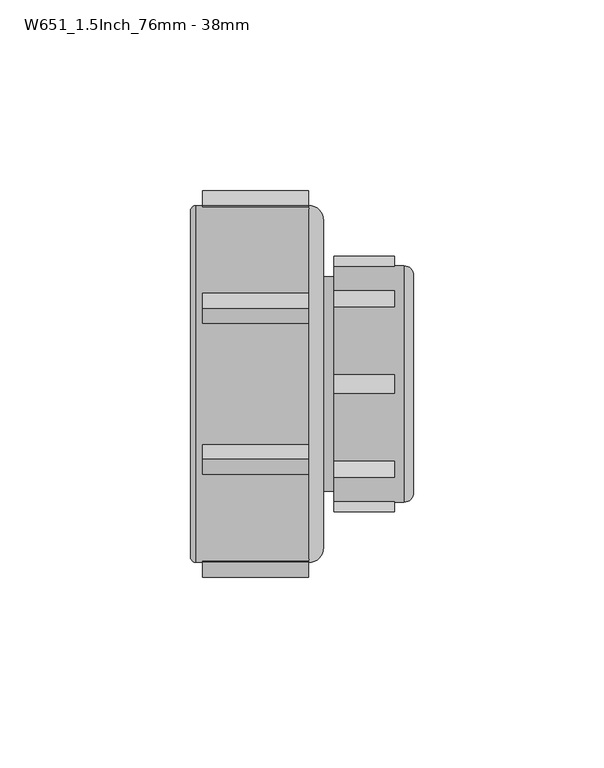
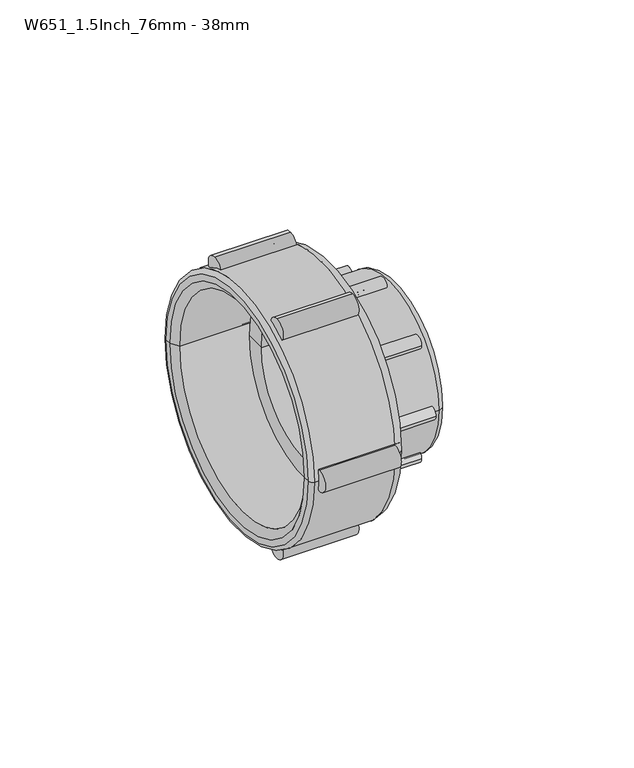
"""IFC4 building model written with IfcOpenShell, lengths in millimetres: pipe fitting geometry, Durapipe_PipeFitting_VulcatheneMechanical_VerticalInlet_W65 : W651_1.5Inch_76mm - 38mm."""

import ifcopenshell
import ifcopenshell.guid

model = None  # the IFC model being written
_history = None  # IfcOwnerHistory: only IFC2X3 demands one
_inside = {}  # id of a spatial element -> (the spatial element, [elements in it])
_under = {}  # id of a project, library or spatial element -> (it, [spatial elements below it])
_declared = {}  # id of a project -> (the project, [libraries it declares])
_typed = {}  # id of a type object -> (the type object, [elements of that type])
_made_of = {}  # id of a material, layer set ... -> (it, [elements and type objects made of it])


def new_model(schema):
    """Start an empty IFC model of exactly this schema.

    Asked for "IFC4X3", IfcOpenShell would pick the latest addendum, in which some entities
    have other attributes; the version numbers below select the first issue.
    IFC2X3 requires an IfcOwnerHistory on every rooted entity: one is made here for all.
    """
    global model, _history
    if schema == "IFC4X3":
        model = ifcopenshell.file(schema_version=(4, 3, 0, 0))
    else:
        model = ifcopenshell.file(schema=schema)
    _inside.clear()
    _under.clear()
    _declared.clear()
    _typed.clear()
    _made_of.clear()
    _history = None
    if model.schema == "IFC2X3":
        org = make("IfcOrganization", Name="unknown")
        user = make(
            "IfcPersonAndOrganization",
            ThePerson=make("IfcPerson", FamilyName="unknown"),
            TheOrganization=org,
        )
        app = make(
            "IfcApplication",
            ApplicationDeveloper=org,
            Version="unknown",
            ApplicationFullName="unknown",
            ApplicationIdentifier="unknown",
        )
        _history = make(
            "IfcOwnerHistory",
            OwningUser=user,
            OwningApplication=app,
            ChangeAction="ADDED",
            CreationDate=0,
        )
    return model


def make(cls, **values):
    """One entity of the class cls with the attributes given. An attribute that is None is left unset."""
    return model.create_entity(
        cls, **{name: value for name, value in values.items() if value is not None}
    )


def rooted(cls, **values):
    """An entity with a GlobalId (a new one), such as an element, a storey or a relation."""
    return make(cls, GlobalId=ifcopenshell.guid.new(), OwnerHistory=_history, **values)


def si_unit(unit_type, name, prefix=None):
    """IfcSIUnit, for example si_unit("LENGTHUNIT", "METRE", prefix="MILLI")."""
    return make("IfcSIUnit", UnitType=unit_type, Prefix=prefix, Name=name)


def assignment(units):
    """IfcUnitAssignment: the units of a project."""
    return None if units is None else make("IfcUnitAssignment", Units=units)


def point(xyz):
    """IfcCartesianPoint."""
    return None if xyz is None else make("IfcCartesianPoint", Coordinates=xyz)


def direction(xyz):
    """IfcDirection."""
    return None if xyz is None else make("IfcDirection", DirectionRatios=xyz)


def frame(location, z_axis=None, x_axis=None):
    """IfcAxis2Placement3D, a coordinate frame: its origin and axes. An axis left out is left unset."""
    return make(
        "IfcAxis2Placement3D",
        Location=point(location),
        Axis=direction(z_axis),
        RefDirection=direction(x_axis),
    )


def frame_2d(location, x_axis=None):
    """IfcAxis2Placement2D, a coordinate frame in the plane: its origin and x axis."""
    return make(
        "IfcAxis2Placement2D", Location=point(location), RefDirection=direction(x_axis)
    )


def origin():
    """The frame at (0, 0, 0) with its axes left unset."""
    return frame((0.0, 0.0, 0.0))


def place(relative_to, where):
    """IfcLocalPlacement: puts the frame where relative to a parent placement (None: the world)."""
    return make(
        "IfcLocalPlacement", PlacementRelTo=relative_to, RelativePlacement=where
    )


def context(
    kind, dimensions, precision=None, world=None, true_north=None, identifier=None
):
    """IfcGeometricRepresentationContext, for example the 3D "Model" context."""
    return make(
        "IfcGeometricRepresentationContext",
        ContextIdentifier=identifier,
        ContextType=kind,
        CoordinateSpaceDimension=dimensions,
        Precision=precision,
        WorldCoordinateSystem=world,
        TrueNorth=true_north,
    )


def project(units=None, contexts=None):
    """IfcProject with its units and contexts."""
    return rooted(
        "IfcProject",
        Name="project",
        RepresentationContexts=contexts,
        UnitsInContext=assignment(units),
    )


def spatial(cls, under=None, at=None, **own):
    """A site, building, storey or space (cls), placed at a placement, below another one or the project."""
    s = rooted(cls, ObjectPlacement=at, **own)
    if under is not None:
        _under.setdefault(under.id(), (under, []))[1].append(s)
    return s


def polyline(points):
    """IfcPolyline through the points."""
    return make("IfcPolyline", Points=[point(p) for p in points])


def circle_curve(where, radius):
    """IfcCircle in the frame where."""
    return make("IfcCircle", Position=where, Radius=radius)


def ellipse_curve(where, semi_axis1, semi_axis2):
    """IfcEllipse in the frame where."""
    return make(
        "IfcEllipse", Position=where, SemiAxis1=semi_axis1, SemiAxis2=semi_axis2
    )


def trimmed(basis, trim1, trim2, sense, master):
    """IfcTrimmedCurve: the piece of a basis curve between two trims."""
    return make(
        "IfcTrimmedCurve",
        BasisCurve=basis,
        Trim1=trim1,
        Trim2=trim2,
        SenseAgreement=sense,
        MasterRepresentation=master,
    )


def segment(curve, same_sense, transition):
    """IfcCompositeCurveSegment."""
    return make(
        "IfcCompositeCurveSegment",
        Transition=transition,
        SameSense=same_sense,
        ParentCurve=curve,
    )


def composite_curve(segments, self_intersect=None):
    """IfcCompositeCurve: segments joined end to end."""
    return make("IfcCompositeCurve", Segments=segments, SelfIntersect=self_intersect)


def outline(outer, holes=None, kind="AREA"):
    """IfcArbitraryClosedProfileDef: a profile drawn as a closed curve; with holes, ...WithVoids."""
    if holes is None:
        return make("IfcArbitraryClosedProfileDef", ProfileType=kind, OuterCurve=outer)
    return make(
        "IfcArbitraryProfileDefWithVoids",
        ProfileType=kind,
        OuterCurve=outer,
        InnerCurves=holes,
    )


def extrude(swept, where, along, depth):
    """IfcExtrudedAreaSolid: the profile swept, set in the frame where, extruded along a direction by depth."""
    return make(
        "IfcExtrudedAreaSolid",
        SweptArea=swept,
        Position=where,
        ExtrudedDirection=direction(along),
        Depth=depth,
    )


def shape(context_of_items, identifier, shape_type, items):
    """IfcShapeRepresentation: the items that make up one representation, for example the "Body"."""
    return make(
        "IfcShapeRepresentation",
        ContextOfItems=context_of_items,
        RepresentationIdentifier=identifier,
        RepresentationType=shape_type,
        Items=items,
    )


def source(mapping_origin, context_of_items, identifier, shape_type, items):
    """IfcRepresentationMap: a shape defined once, which mapped items show again and again."""
    return make(
        "IfcRepresentationMap",
        MappingOrigin=mapping_origin,
        MappedRepresentation=shape(context_of_items, identifier, shape_type, items),
    )


def transform(
    local_origin,
    x_axis=None,
    y_axis=None,
    z_axis=None,
    scale=None,
    scale2=None,
    scale3=None,
    uniform=True,
):
    """IfcCartesianTransformationOperator3D, or its non-uniform kind. x_axis, y_axis, z_axis: its Axis1, 2, 3."""
    if uniform:
        return make(
            "IfcCartesianTransformationOperator3D",
            Axis1=direction(x_axis),
            Axis2=direction(y_axis),
            LocalOrigin=point(local_origin),
            Scale=scale,
            Axis3=direction(z_axis),
        )
    return make(
        "IfcCartesianTransformationOperator3DnonUniform",
        Axis1=direction(x_axis),
        Axis2=direction(y_axis),
        LocalOrigin=point(local_origin),
        Scale=scale,
        Axis3=direction(z_axis),
        Scale2=scale2,
        Scale3=scale3,
    )


def mapped(mapping_source, mapping_target):
    """IfcMappedItem: shows the shape of a source again, moved by a transform."""
    return make(
        "IfcMappedItem", MappingSource=mapping_source, MappingTarget=mapping_target
    )


def made_of(thing, what):
    """Note that an element or type object is made of a material, layer set ...; save() writes the relation."""
    if what is not None:
        _made_of.setdefault(what.id(), (what, []))[1].append(thing)
    return thing


def element(
    cls,
    number,
    at=None,
    inside=None,
    cuts=None,
    type_object=None,
    material=None,
    context=None,
    identifier="Body",
    shape_type=None,
    held_by="IfcProductDefinitionShape",
    body=None,
    shapes=None,
    **own,
):
    """One element of the class cls, such as IfcWall. Its Tag is "e" and its number.

    at: its placement. inside: the storey or other place that contains it. cuts: it is an
    opening in that element (IfcRelVoidsElement). A single representation is given by context,
    identifier, shape_type and body (its items); several are given by shapes. held_by: the class
    of the entity that holds the representations. save() writes the other relations.
    """
    e = rooted(cls, Tag="e%d" % number, ObjectPlacement=at, **own)
    if body is not None:
        shapes = [shape(context, identifier, shape_type, body)]
    if shapes is not None:
        e.Representation = make(held_by, Representations=shapes)
    if inside is not None:
        _inside.setdefault(inside.id(), (inside, []))[1].append(e)
    if cuts is not None:
        rooted(
            "IfcRelVoidsElement", RelatingBuildingElement=cuts, RelatedOpeningElement=e
        )
    if type_object is not None:
        _typed.setdefault(type_object.id(), (type_object, []))[1].append(e)
    return made_of(e, material)


def aggregate(whole, parts):
    """IfcRelAggregates: a whole, such as a stair, and the parts it consists of."""
    return rooted("IfcRelAggregates", RelatingObject=whole, RelatedObjects=parts)


def save(model, path):
    """Write the relations noted so far, then the file.

    IfcRelAggregates (storeys below a building ...), IfcRelContainedInSpatialStructure (elements
    in a storey), IfcRelDefinesByType, IfcRelAssociatesMaterial and IfcRelDeclares: one each for
    every whole, place, type object, material and project.
    """
    for whole, parts in _under.values():
        aggregate(whole, parts)
    for where, things in _inside.values():
        rooted(
            "IfcRelContainedInSpatialStructure",
            RelatedElements=things,
            RelatingStructure=where,
        )
    for kind, things in _typed.values():
        rooted("IfcRelDefinesByType", RelatedObjects=things, RelatingType=kind)
    for what, things in _made_of.values():
        rooted("IfcRelAssociatesMaterial", RelatedObjects=things, RelatingMaterial=what)
    for by, libraries in _declared.values():
        rooted("IfcRelDeclares", RelatingContext=by, RelatedDefinitions=libraries)
    model.write(path)


def plane_surface(at):
    """IfcPlane: the flat surface through the origin of the frame at, square to its z axis."""
    return make("IfcPlane", Position=at)


def cylinder_surface(at, radius):
    """IfcCylindricalSurface: all points at the distance radius from the z axis of the frame at."""
    return make("IfcCylindricalSurface", Position=at, Radius=radius)


def revolved_surface(curve, axis_point, axis_direction):
    """IfcSurfaceOfRevolution: the curve turned about the line through axis_point along axis_direction."""
    return make(
        "IfcSurfaceOfRevolution",
        SweptCurve=make("IfcArbitraryOpenProfileDef", ProfileType="CURVE", Curve=curve),
        AxisPosition=make("IfcAxis1Placement", Location=point(axis_point), Axis=direction(axis_direction)),
    )


def advanced_brep(points, edges, surfaces, faces):
    """IfcAdvancedBrep: a solid bounded by faces that lie on surfaces and meet in shared edges.

    An edge is (start, end): straight between two places in points (the first is 0);
    or (start, end, curve); or (start, end, curve, False) where it runs against its curve.
    A face is (place in surfaces, loops), or (place, loops, False) where it looks against
    its surface's normal. A loop lists edges by number (the first is 1), with a minus sign
    where the edge is run from its end to its start. The first loop is the outer one.
    """
    corners = [point(p) for p in points]
    vertices = [make("IfcVertexPoint", VertexGeometry=c) for c in corners]
    made = []
    for start, end, *more in edges:
        made.append(
            make(
                "IfcEdgeCurve",
                EdgeStart=vertices[start],
                EdgeEnd=vertices[end],
                EdgeGeometry=more[0] if more else make("IfcPolyline", Points=[corners[start], corners[end]]),
                SameSense=more[1] if len(more) > 1 else True,
            )
        )
    hull = []
    for where, loops, *sense in faces:
        bounds = []
        for j, loop in enumerate(loops):
            ring = [make("IfcOrientedEdge", EdgeElement=made[abs(k) - 1], Orientation=k > 0) for k in loop]
            bounds.append(
                make(
                    "IfcFaceOuterBound" if j == 0 else "IfcFaceBound",
                    Bound=make("IfcEdgeLoop", EdgeList=ring),
                    Orientation=True,
                )
            )
        hull.append(make("IfcAdvancedFace", Bounds=bounds, FaceSurface=surfaces[where], SameSense=sense[0] if sense else True))
    return make("IfcAdvancedBrep", Outer=make("IfcClosedShell", CfsFaces=hull))


def w651_1_5inch_76mm_38mm_cad2a2d1(model_context):
    return source(origin(), model_context, "Body", "SolidModel", [
        advanced_brep(
        [(25.1, 18.5969083, 17.9055623), (25.1, -18.5969083, -19.2882544), (25.1, -17.1119841, -17.8033301), (25.1, 17.1119841, 16.4206381), (20.1, 18.3140656, 17.6227196), (20.1, -18.3140656, -19.0054117), (18.6, 18.1019336, 17.4105876), (18.6, -18.1019336, -18.7932796), (20.1, -18.1019336, -18.7932796), (20.1, 18.1019336, 17.4105876), (18.6, 17.1119841, 16.4206381), (18.6, -17.1119841, -17.8033301), (20.6, 17.1119841, 16.4206381), (20.6, -17.1119841, -17.8033301), (20.6, 16.5462987, 15.8549527), (20.6, -16.5462987, -17.2376447), (22.9, 17.1119841, 16.4206381), (22.9, -17.1119841, -17.8033301), (22.9, -16.5462987, -17.2376447), (22.9, 16.5462987, 15.8549527)],
        [
            (0, 1, circle_curve(frame((25.1, 0.0, -0.691346), z_axis=(1.0, 0.0, 0.0), x_axis=(0.0, -0.7071067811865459, -0.7071067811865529)), 26.3)),
            (1, 2),
            (2, 3, circle_curve(frame((25.1, 0.0, -0.691346), z_axis=(-1.0, 0.0, 0.0), x_axis=(0.0, -0.7071067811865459, -0.7071067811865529)), 24.2)),
            (3, 0),
            (1, 0, circle_curve(frame((25.1, 0.0, -0.691346), z_axis=(1.0, 0.0, 0.0), x_axis=(0.0, -0.7071067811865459, -0.7071067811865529)), 26.3)),
            (3, 2, circle_curve(frame((25.1, 0.0, -0.691346), z_axis=(-1.0, 0.0, 0.0), x_axis=(0.0, -0.7071067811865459, -0.7071067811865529)), 24.2)),
            (4, 5, circle_curve(frame((20.1, 0.0, -0.691346), z_axis=(1.0, 0.0, 0.0), x_axis=(0.0, -0.7071067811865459, -0.7071067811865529)), 25.9)),
            (5, 1),
            (0, 4),
            (5, 4, circle_curve(frame((20.1, 0.0, -0.691346), z_axis=(1.0, 0.0, 0.0), x_axis=(0.0, -0.7071067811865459, -0.7071067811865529)), 25.9)),
            (6, 7, circle_curve(frame((18.6, 0.0, -0.691346), z_axis=(1.0, 0.0, 0.0), x_axis=(0.0, -0.7071067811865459, -0.7071067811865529)), 25.6)),
            (7, 8),
            (8, 9, circle_curve(frame((20.1, 0.0, -0.691346), z_axis=(-1.0, 0.0, 0.0), x_axis=(0.0, -0.7071067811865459, -0.7071067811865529)), 25.6)),
            (9, 6),
            (7, 6, circle_curve(frame((18.6, 0.0, -0.691346), z_axis=(1.0, 0.0, 0.0), x_axis=(0.0, -0.7071067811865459, -0.7071067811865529)), 25.6)),
            (9, 8, circle_curve(frame((20.1, 0.0, -0.691346), z_axis=(-1.0, 0.0, 0.0), x_axis=(0.0, -0.7071067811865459, -0.7071067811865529)), 25.6)),
            (6, 10),
            (10, 11, circle_curve(frame((18.6, 0.0, -0.691346), z_axis=(1.0, 0.0, 0.0), x_axis=(0.0, -0.7071067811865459, -0.7071067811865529)), 24.2)),
            (11, 7),
            (11, 10, circle_curve(frame((18.6, 0.0, -0.691346), z_axis=(1.0, 0.0, 0.0), x_axis=(0.0, -0.7071067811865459, -0.7071067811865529)), 24.2)),
            (10, 12),
            (12, 13, circle_curve(frame((20.6, 0.0, -0.691346), z_axis=(1.0, 0.0, 0.0), x_axis=(0.0, -0.7071067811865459, -0.7071067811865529)), 24.2)),
            (13, 11),
            (13, 12, circle_curve(frame((20.6, 0.0, -0.691346), z_axis=(1.0, 0.0, 0.0), x_axis=(0.0, -0.7071067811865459, -0.7071067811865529)), 24.2)),
            (12, 14),
            (14, 15, circle_curve(frame((20.6, 0.0, -0.691346), z_axis=(1.0, 0.0, 0.0), x_axis=(0.0, -0.7071067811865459, -0.7071067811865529)), 23.4)),
            (15, 13),
            (15, 14, circle_curve(frame((20.6, 0.0, -0.691346), z_axis=(1.0, 0.0, 0.0), x_axis=(0.0, -0.7071067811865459, -0.7071067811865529)), 23.4)),
            (16, 17, circle_curve(frame((22.9, 0.0, -0.691346), z_axis=(1.0, 0.0, 0.0), x_axis=(0.0, -0.7071067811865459, -0.7071067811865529)), 24.2)),
            (17, 18),
            (18, 19, circle_curve(frame((22.9, 0.0, -0.691346), z_axis=(-1.0, 0.0, 0.0), x_axis=(0.0, -0.7071067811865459, -0.7071067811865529)), 23.4)),
            (19, 16),
            (17, 16, circle_curve(frame((22.9, 0.0, -0.691346), z_axis=(1.0, 0.0, 0.0), x_axis=(0.0, -0.7071067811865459, -0.7071067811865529)), 24.2)),
            (19, 18, circle_curve(frame((22.9, 0.0, -0.691346), z_axis=(-1.0, 0.0, 0.0), x_axis=(0.0, -0.7071067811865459, -0.7071067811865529)), 23.4)),
            (2, 17),
            (16, 3),
            (14, 19),
            (18, 15),
            (4, 9),
            (8, 5),
        ],
        [
            plane_surface(frame((25.1, 0.0, -0.691346), z_axis=(1.0, 0.0, 0.0), x_axis=(0.0, -0.707106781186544, -0.707106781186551))),
            revolved_surface(polyline([(25.1, -18.5969083, -19.2882544), (20.1, -18.3140656, -19.0054117)]), (30.1, 0.0, -0.691346), (-1.0000000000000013, 0.0, 0.0)),
            cylinder_surface(frame((16.5293443, 0.0, -0.691346), z_axis=(-1.0000000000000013, 0.0, 0.0), x_axis=(0.0, -0.7071067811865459, -0.7071067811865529)), 25.6),
            plane_surface(frame((18.6, 0.0, -0.691346), z_axis=(-1.0, 0.0, 0.0), x_axis=(0.0, -0.707106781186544, -0.707106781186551))),
            revolved_surface(polyline([(18.60000000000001, -17.11198410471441, -17.80333010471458), (20.600000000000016, -17.11198410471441, -17.80333010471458)]), (15.107009, 0.0, -0.691346), (-1.0000000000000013, 0.0, 0.0)),
            plane_surface(frame((20.6, 0.0, -0.691346), z_axis=(-1.0, 0.0, 0.0), x_axis=(0.0, -0.707106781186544, -0.707106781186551))),
            plane_surface(frame((22.9, 0.0, -0.691346), z_axis=(1.0, 0.0, 0.0), x_axis=(0.0, -0.707106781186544, -0.707106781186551))),
            revolved_surface(polyline([(22.899999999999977, -17.11198410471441, -17.80333010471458), (25.099999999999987, -17.11198410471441, -17.80333010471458)]), (30.1, 0.0, -0.691346), (-1.0000000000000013, 0.0, 0.0)),
            revolved_surface(polyline([(20.599999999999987, -16.546298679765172, -17.237644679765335), (22.899999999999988, -16.546298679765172, -17.237644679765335)]), (26.6661924, 0.0, -0.691346), (-1.0000000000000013, 0.0, 0.0)),
            plane_surface(frame((20.1, 0.0, -0.691346), z_axis=(-1.0, 0.0, 0.0), x_axis=(0.0, -0.707106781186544, -0.707106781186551))),
        ],
        [
            (0, [[1, 2, 3, 4]]),
            (0, [[-2, 5, -4, 6]]),
            (1, [[7, 8, -1, 9]]),
            (1, [[10, -9, -5, -8]]),
            (2, [[11, 12, 13, 14]]),
            (2, [[-12, 15, -14, 16]]),
            (3, [[-11, 17, 18, 19]]),
            (3, [[-15, -19, 20, -17]]),
            (4, [[21, 22, 23, -18]]),
            (4, [[-21, -20, -23, 24]]),
            (5, [[-22, 25, 26, 27]]),
            (5, [[-24, -27, 28, -25]]),
            (6, [[29, 30, 31, 32]]),
            (6, [[33, -32, 34, -30]]),
            (7, [[-3, 35, -29, 36]]),
            (7, [[-6, -36, -33, -35]]),
            (8, [[37, -31, 38, -26]]),
            (8, [[-37, -28, -38, -34]]),
            (9, [[-7, 39, -13, 40]]),
            (9, [[-10, -40, -16, -39]]),
        ],
    ),
        advanced_brep(
        [(8.4, 31.0, -0.691346), (8.4, -31.0, -0.691346), (26.8, -31.0, -0.691346), (26.8, 31.0, -0.691346), (8.4, 26.0, -0.691346), (8.4, -26.0, -0.691346), (29.3, 28.5, -0.691346), (29.3, -28.5, -0.691346), (29.3, -24.0, -0.691346), (29.3, 24.0, -0.691346), (25.1, 26.0, -0.691346), (25.1, -26.0, -0.691346), (25.1, 24.0, -0.691346), (25.1, -24.0, -0.691346)],
        [
            (0, 1, circle_curve(frame((8.4, 0.0, -0.691346), z_axis=(1.0, 0.0, 0.0), x_axis=(0.0, -1.0000000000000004, 0.0)), 31.0)),
            (1, 2),
            (2, 3, circle_curve(frame((26.8, 0.0, -0.691346), z_axis=(-1.0, 0.0, 0.0), x_axis=(0.0, -1.0000000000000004, 0.0)), 31.0)),
            (3, 0),
            (1, 0, circle_curve(frame((8.4, 0.0, -0.691346), z_axis=(1.0, 0.0, 0.0), x_axis=(0.0, -1.0000000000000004, 0.0)), 31.0)),
            (3, 2, circle_curve(frame((26.8, 0.0, -0.691346), z_axis=(-1.0, 0.0, 0.0), x_axis=(0.0, -1.0000000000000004, 0.0)), 31.0)),
            (4, 5, circle_curve(frame((8.4, 0.0, -0.691346), z_axis=(1.0, 0.0, 0.0), x_axis=(0.0, -1.0000000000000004, 0.0)), 26.0)),
            (5, 1),
            (0, 4),
            (5, 4, circle_curve(frame((8.4, 0.0, -0.691346), z_axis=(1.0, 0.0, 0.0), x_axis=(0.0, -1.0000000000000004, 0.0)), 26.0)),
            (6, 7, circle_curve(frame((29.3, 0.0, -0.691346), z_axis=(1.0, 0.0, 0.0), x_axis=(0.0, -1.0000000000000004, 0.0)), 28.5)),
            (7, 8),
            (8, 9, circle_curve(frame((29.3, 0.0, -0.691346), z_axis=(-1.0, 0.0, 0.0), x_axis=(0.0, -1.0000000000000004, 0.0)), 24.0)),
            (9, 6),
            (7, 6, circle_curve(frame((29.3, 0.0, -0.691346), z_axis=(1.0, 0.0, 0.0), x_axis=(0.0, -1.0000000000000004, 0.0)), 28.5)),
            (9, 8, circle_curve(frame((29.3, 0.0, -0.691346), z_axis=(-1.0, 0.0, 0.0), x_axis=(0.0, -1.0000000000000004, 0.0)), 24.0)),
            (2, 7, circle_curve(frame((26.8, -28.5, -0.691346), z_axis=(0.0, 0.0, 1.0000000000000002), x_axis=(1.0000000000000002, 0.0, 0.0)), 2.5)),
            (6, 3, circle_curve(frame((26.8, 28.5, -0.691346), z_axis=(0.0, 0.0, 1.0000000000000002), x_axis=(1.0000000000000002, 0.0, 0.0)), 2.5)),
            (10, 11, circle_curve(frame((25.1, 0.0, -0.691346), z_axis=(1.0, 0.0, 0.0), x_axis=(0.0, -1.0000000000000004, 0.0)), 26.0)),
            (11, 5),
            (4, 10),
            (11, 10, circle_curve(frame((25.1, 0.0, -0.691346), z_axis=(1.0, 0.0, 0.0), x_axis=(0.0, -1.0000000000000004, 0.0)), 26.0)),
            (12, 13, circle_curve(frame((25.1, 0.0, -0.691346), z_axis=(1.0, 0.0, 0.0), x_axis=(0.0, -1.0000000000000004, 0.0)), 24.0)),
            (13, 11),
            (10, 12),
            (13, 12, circle_curve(frame((25.1, 0.0, -0.691346), z_axis=(1.0, 0.0, 0.0), x_axis=(0.0, -1.0000000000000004, 0.0)), 24.0)),
            (8, 13),
            (12, 9),
        ],
        [
            cylinder_surface(frame((1590.1018184, 0.0, -0.691346), z_axis=(-1.0000000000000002, 0.0, 0.0), x_axis=(0.0, -1.0000000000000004, 0.0)), 31.0),
            plane_surface(frame((8.4, 0.0, -0.691346), z_axis=(-1.0, 0.0, 0.0), x_axis=(0.0, -1.0, 0.0))),
            plane_surface(frame((29.3, 0.0, -0.691346), z_axis=(1.0, 0.0, 0.0), x_axis=(0.0, -1.0, 0.0))),
            revolved_surface(trimmed(ellipse_curve(frame((26.8, -28.5, -0.691346), z_axis=(0.0, 0.0, -1.0000000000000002), x_axis=(1.0000000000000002, 0.0, 0.0)), 2.5, 2.5), [point((29.3, -28.5, -0.691346))], [point((26.8, -31.0, -0.691346))], True, "CARTESIAN"), (1590.1018184, 0.0, -0.691346), (-1.0000000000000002, 0.0, 0.0)),
            revolved_surface(polyline([(8.399999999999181, -26.00000000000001, -0.691346), (25.099999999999, -26.00000000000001, -0.691346)]), (1590.1018184, 0.0, -0.691346), (-1.0000000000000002, 0.0, 0.0)),
            plane_surface(frame((25.1, 0.0, -0.691346), z_axis=(-1.0, 0.0, 0.0), x_axis=(0.0, -1.0, 0.0))),
            revolved_surface(polyline([(25.099999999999, -24.00000000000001, -0.691346), (29.299999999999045, -24.00000000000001, -0.691346)]), (1590.1018184, 0.0, -0.691346), (-1.0000000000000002, 0.0, 0.0)),
        ],
        [
            (0, [[1, 2, 3, 4]]),
            (0, [[5, -4, 6, -2]]),
            (1, [[7, 8, -1, 9]]),
            (1, [[10, -9, -5, -8]]),
            (2, [[11, 12, 13, 14]]),
            (2, [[15, -14, 16, -12]]),
            (3, [[-3, 17, -11, 18]]),
            (3, [[-6, -18, -15, -17]]),
            (4, [[19, 20, -7, 21]]),
            (4, [[22, -21, -10, -20]]),
            (5, [[23, 24, -19, 25]]),
            (5, [[26, -25, -22, -24]]),
            (6, [[-13, 27, -23, 28]]),
            (6, [[-16, -28, -26, -27]]),
        ],
    ),
        extrude(outline(composite_curve([segment(trimmed(circle_curve(frame_2d((0.0, -31.691346)), 2.5), [point((2.5, -31.691346))], [point((-2.5, -31.691346))], False, "CARTESIAN"), True, "CONTINUOUS"), segment(trimmed(circle_curve(frame_2d((0.0, -31.691346)), 2.5), [point((-2.5, -31.691346))], [point((2.5, -31.691346))], False, "CARTESIAN"), True, "CONTINUOUS")], self_intersect=False)), frame((8.4, 0.0, 0.0), z_axis=(1.0, 0.0, 0.0), x_axis=(0.0, 1.0, 0.0)), (0.0, 0.0, 1.0), 15.9),
        extrude(outline(composite_curve([segment(trimmed(circle_curve(frame_2d((-21.9203102, -22.6116562)), 2.5), [point((-19.4203102, -22.6116562))], [point((-24.4203102, -22.6116562))], False, "CARTESIAN"), True, "CONTINUOUS"), segment(trimmed(circle_curve(frame_2d((-21.9203102, -22.6116562)), 2.5), [point((-24.4203102, -22.6116562))], [point((-19.4203102, -22.6116562))], False, "CARTESIAN"), True, "CONTINUOUS")], self_intersect=False)), frame((8.4, 0.0, 0.0), z_axis=(1.0, 0.0, 0.0), x_axis=(0.0, 1.0, 0.0)), (0.0, 0.0, 1.0), 15.9),
        extrude(outline(composite_curve([segment(trimmed(circle_curve(frame_2d((-31.0, -0.691346)), 2.5), [point((-28.5, -0.691346))], [point((-33.5, -0.691346))], False, "CARTESIAN"), True, "CONTINUOUS"), segment(trimmed(circle_curve(frame_2d((-31.0, -0.691346)), 2.5), [point((-33.5, -0.691346))], [point((-28.5, -0.691346))], False, "CARTESIAN"), True, "CONTINUOUS")], self_intersect=False)), frame((8.4, 0.0, 0.0), z_axis=(1.0, 0.0, 0.0), x_axis=(0.0, 1.0, 0.0)), (0.0, 0.0, 1.0), 15.9),
        extrude(outline(composite_curve([segment(trimmed(circle_curve(frame_2d((-21.9203102, 21.2289642)), 2.5), [point((-19.4203102, 21.2289642))], [point((-24.4203102, 21.2289642))], False, "CARTESIAN"), True, "CONTINUOUS"), segment(trimmed(circle_curve(frame_2d((-21.9203102, 21.2289642)), 2.5), [point((-24.4203102, 21.2289642))], [point((-19.4203102, 21.2289642))], False, "CARTESIAN"), True, "CONTINUOUS")], self_intersect=False)), frame((8.4, 0.0, 0.0), z_axis=(1.0, 0.0, 0.0), x_axis=(0.0, 1.0, 0.0)), (0.0, 0.0, 1.0), 15.9),
        extrude(outline(composite_curve([segment(trimmed(circle_curve(frame_2d((0.0, 30.308654)), 2.5), [point((2.5, 30.308654))], [point((-2.5, 30.308654))], False, "CARTESIAN"), True, "CONTINUOUS"), segment(trimmed(circle_curve(frame_2d((0.0, 30.308654)), 2.5), [point((-2.5, 30.308654))], [point((2.5, 30.308654))], False, "CARTESIAN"), True, "CONTINUOUS")], self_intersect=False)), frame((8.4, 0.0, 0.0), z_axis=(1.0, 0.0, 0.0), x_axis=(0.0, 1.0, 0.0)), (0.0, 0.0, 1.0), 15.9),
        extrude(outline(composite_curve([segment(trimmed(circle_curve(frame_2d((21.9203102, 21.2289642)), 2.5), [point((24.4203102, 21.2289642))], [point((19.4203102, 21.2289642))], False, "CARTESIAN"), True, "CONTINUOUS"), segment(trimmed(circle_curve(frame_2d((21.9203102, 21.2289642)), 2.5), [point((19.4203102, 21.2289642))], [point((24.4203102, 21.2289642))], False, "CARTESIAN"), True, "CONTINUOUS")], self_intersect=False)), frame((8.4, 0.0, 0.0), z_axis=(1.0, 0.0, 0.0), x_axis=(0.0, 1.0, 0.0)), (0.0, 0.0, 1.0), 15.9),
        extrude(outline(composite_curve([segment(trimmed(circle_curve(frame_2d((31.0, -0.691346)), 2.5), [point((33.5, -0.691346))], [point((28.5, -0.691346))], False, "CARTESIAN"), True, "CONTINUOUS"), segment(trimmed(circle_curve(frame_2d((31.0, -0.691346)), 2.5), [point((28.5, -0.691346))], [point((33.5, -0.691346))], False, "CARTESIAN"), True, "CONTINUOUS")], self_intersect=False)), frame((8.4, 0.0, 0.0), z_axis=(1.0, 0.0, 0.0), x_axis=(0.0, 1.0, 0.0)), (0.0, 0.0, 1.0), 15.9),
        extrude(outline(composite_curve([segment(trimmed(circle_curve(frame_2d((21.9203102, -22.6116562)), 2.5), [point((24.4203102, -22.6116562))], [point((19.4203102, -22.6116562))], False, "CARTESIAN"), True, "CONTINUOUS"), segment(trimmed(circle_curve(frame_2d((21.9203102, -22.6116562)), 2.5), [point((19.4203102, -22.6116562))], [point((24.4203102, -22.6116562))], False, "CARTESIAN"), True, "CONTINUOUS")], self_intersect=False)), frame((8.4, 0.0, 0.0), z_axis=(1.0, 0.0, 0.0), x_axis=(0.0, 1.0, 0.0)), (0.0, 0.0, 1.0), 15.9),
        extrude(outline(composite_curve([segment(trimmed(circle_curve(frame_2d((-46.7488124, 0.0)), 4.0), [point((-46.7488124, -4.0))], [point((-46.7488124, 4.0))], False, "CARTESIAN"), True, "CONTINUOUS"), segment(trimmed(circle_curve(frame_2d((-46.7488124, 0.0)), 4.0), [point((-46.7488124, 4.0))], [point((-46.7488124, -4.0))], False, "CARTESIAN"), True, "CONTINUOUS")], self_intersect=False)), frame((-26.125, 0.0, 0.0), z_axis=(1.0, 0.0, 0.0), x_axis=(0.0, 1.0, 0.0)), (0.0, 0.0, 1.0), 27.78),
        extrude(outline(composite_curve([segment(trimmed(circle_curve(frame_2d((46.7488124, 0.0)), 4.0), [point((46.7488124, -4.0))], [point((46.7488124, 4.0))], False, "CARTESIAN"), True, "CONTINUOUS"), segment(trimmed(circle_curve(frame_2d((46.7488124, 0.0)), 4.0), [point((46.7488124, 4.0))], [point((46.7488124, -4.0))], False, "CARTESIAN"), True, "CONTINUOUS")], self_intersect=False)), frame((-26.125, 0.0, 0.0), z_axis=(1.0, 0.0, 0.0), x_axis=(0.0, 1.0, 0.0)), (0.0, 0.0, 1.0), 27.78),
        extrude(outline(composite_curve([segment(trimmed(circle_curve(frame_2d((-19.7569018, -42.3688127)), 4.0), [point((-19.7569018, -46.3688127))], [point((-19.7569018, -38.3688127))], False, "CARTESIAN"), True, "CONTINUOUS"), segment(trimmed(circle_curve(frame_2d((-19.7569018, -42.3688127)), 4.0), [point((-19.7569018, -38.3688127))], [point((-19.7569018, -46.3688127))], False, "CARTESIAN"), True, "CONTINUOUS")], self_intersect=False)), frame((-26.125, 0.0, 0.0), z_axis=(1.0, 0.0, 0.0), x_axis=(0.0, 1.0, 0.0)), (0.0, 0.0, 1.0), 27.78),
        extrude(outline(composite_curve([segment(trimmed(circle_curve(frame_2d((19.7569018, 42.3688127)), 4.0), [point((19.7569018, 38.3688127))], [point((19.7569018, 46.3688127))], False, "CARTESIAN"), True, "CONTINUOUS"), segment(trimmed(circle_curve(frame_2d((19.7569018, 42.3688127)), 4.0), [point((19.7569018, 46.3688127))], [point((19.7569018, 38.3688127))], False, "CARTESIAN"), True, "CONTINUOUS")], self_intersect=False)), frame((-26.125, 0.0, 0.0), z_axis=(1.0, 0.0, 0.0), x_axis=(0.0, 1.0, 0.0)), (0.0, 0.0, 1.0), 27.78),
        extrude(outline(composite_curve([segment(trimmed(circle_curve(frame_2d((19.7569018, -42.3688127)), 4.0), [point((19.7569018, -46.3688127))], [point((19.7569018, -38.3688127))], False, "CARTESIAN"), True, "CONTINUOUS"), segment(trimmed(circle_curve(frame_2d((19.7569018, -42.3688127)), 4.0), [point((19.7569018, -38.3688127))], [point((19.7569018, -46.3688127))], False, "CARTESIAN"), True, "CONTINUOUS")], self_intersect=False)), frame((-26.125, 0.0, 0.0), z_axis=(1.0, 0.0, 0.0), x_axis=(0.0, 1.0, 0.0)), (0.0, 0.0, 1.0), 27.78),
        extrude(outline(composite_curve([segment(trimmed(circle_curve(frame_2d((-19.7569018, 42.3688127)), 4.0), [point((-19.7569018, 38.3688127))], [point((-19.7569018, 46.3688127))], False, "CARTESIAN"), True, "CONTINUOUS"), segment(trimmed(circle_curve(frame_2d((-19.7569018, 42.3688127)), 4.0), [point((-19.7569018, 46.3688127))], [point((-19.7569018, 38.3688127))], False, "CARTESIAN"), True, "CONTINUOUS")], self_intersect=False)), frame((-26.125, 0.0, 0.0), z_axis=(1.0, 0.0, 0.0), x_axis=(0.0, 1.0, 0.0)), (0.0, 0.0, 1.0), 27.78),
        advanced_brep(
        [(25.1, -26.314683, 0.0), (25.1, 26.314683, 0.0), (-5.225, 26.314683, 0.0), (-5.225, -26.314683, 0.0), (25.1, -28.1, 0.0), (25.1, 28.1, 0.0), (0.8625, -28.1, 0.0), (0.8625, 28.1, 0.0), (0.8625, -33.7292025, 0.0), (0.8625, 33.7292025, 0.0), (-5.225, -33.7292025, 0.0), (-5.225, 33.7292025, 0.0)],
        [
            (0, 1, circle_curve(frame((25.1, 0.0, 0.0), z_axis=(1.0, 0.0, 0.0), x_axis=(0.0, 1.0, 0.0)), 26.314683)),
            (1, 2),
            (2, 3, circle_curve(frame((-5.225, 0.0, 0.0), z_axis=(-1.0, 0.0, 0.0), x_axis=(0.0, 1.0, 0.0)), 26.314683)),
            (3, 0),
            (1, 0, circle_curve(frame((25.1, 0.0, 0.0), z_axis=(1.0, 0.0, 0.0), x_axis=(0.0, 1.0, 0.0)), 26.314683)),
            (3, 2, circle_curve(frame((-5.225, 0.0, 0.0), z_axis=(-1.0, 0.0, 0.0), x_axis=(0.0, 1.0, 0.0)), 26.314683)),
            (4, 5, circle_curve(frame((25.1, 0.0, 0.0), z_axis=(1.0, 0.0, 0.0), x_axis=(0.0, 1.0, 0.0)), 28.1)),
            (5, 1),
            (0, 4),
            (5, 4, circle_curve(frame((25.1, 0.0, 0.0), z_axis=(1.0, 0.0, 0.0), x_axis=(0.0, 1.0, 0.0)), 28.1)),
            (6, 7, circle_curve(frame((0.8625, 0.0, 0.0), z_axis=(1.0, 0.0, 0.0), x_axis=(0.0, 1.0, 0.0)), 28.1)),
            (7, 5),
            (4, 6),
            (7, 6, circle_curve(frame((0.8625, 0.0, 0.0), z_axis=(1.0, 0.0, 0.0), x_axis=(0.0, 1.0, 0.0)), 28.1)),
            (8, 9, circle_curve(frame((0.8625, 0.0, 0.0), z_axis=(1.0, 0.0, 0.0), x_axis=(0.0, 1.0, 0.0)), 33.7292025)),
            (9, 7),
            (6, 8),
            (9, 8, circle_curve(frame((0.8625, 0.0, 0.0), z_axis=(1.0, 0.0, 0.0), x_axis=(0.0, 1.0, 0.0)), 33.7292025)),
            (10, 11, circle_curve(frame((-5.225, 0.0, 0.0), z_axis=(1.0, 0.0, 0.0), x_axis=(0.0, 1.0, 0.0)), 33.7292025)),
            (11, 9),
            (8, 10),
            (11, 10, circle_curve(frame((-5.225, 0.0, 0.0), z_axis=(1.0, 0.0, 0.0), x_axis=(0.0, 1.0, 0.0)), 33.7292025)),
            (2, 11),
            (10, 3),
        ],
        [
            revolved_surface(polyline([(-5.225000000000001, 26.314683, 0.0), (25.1, 26.314683, 0.0)]), (32.8014996, 0.0, 0.0), (-1.0, 0.0, 0.0)),
            plane_surface(frame((25.1, 0.0, 0.0), z_axis=(1.0, 0.0, 0.0), x_axis=(0.0, 1.0, 0.0))),
            cylinder_surface(frame((32.8014996, 0.0, 0.0), z_axis=(-1.0, 0.0, 0.0), x_axis=(0.0, 1.0, 0.0)), 28.1),
            plane_surface(frame((0.8625, 0.0, 0.0), z_axis=(1.0, 0.0, 0.0), x_axis=(0.0, 1.0, 0.0))),
            cylinder_surface(frame((32.8014996, 0.0, 0.0), z_axis=(-1.0, 0.0, 0.0), x_axis=(0.0, 1.0, 0.0)), 33.7292025),
            plane_surface(frame((-5.225, 0.0, 0.0), z_axis=(-1.0, 0.0, 0.0), x_axis=(0.0, 1.0, 0.0))),
        ],
        [
            (0, [[1, 2, 3, 4]]),
            (0, [[5, -4, 6, -2]]),
            (1, [[7, 8, -1, 9]]),
            (1, [[10, -9, -5, -8]]),
            (2, [[11, 12, -7, 13]]),
            (2, [[14, -13, -10, -12]]),
            (3, [[15, 16, -11, 17]]),
            (3, [[18, -17, -14, -16]]),
            (4, [[19, 20, -15, 21]]),
            (4, [[22, -21, -18, -20]]),
            (5, [[-3, 23, -19, 24]]),
            (5, [[-6, -24, -22, -23]]),
        ],
    ),
        advanced_brep(
        [(-0.725, -40.0, 0.0), (-0.725, 40.0, 0.0), (-27.2027451, 40.0, 0.0), (-27.2027451, -40.0, 0.0), (-0.725, -33.7292025, 0.0), (-0.725, 33.7292025, 0.0), (0.8625, -33.7292025, 0.0), (0.8625, 33.7292025, 0.0), (0.8625, -29.7427598, 0.0), (0.8625, 29.7427598, 0.0), (5.625, -29.7427598, 0.0), (5.625, 29.7427598, 0.0), (5.625, -42.9951904, 0.0), (5.625, 42.9951904, 0.0), (1.787074, -46.8331164, 0.0), (1.787074, 46.8331164, 0.0), (-27.8, -46.8331164, 0.0), (-27.8, 46.8331164, 0.0), (-29.3, -45.3331164, 0.0), (-29.3, 45.3331164, 0.0), (-29.3, -42.9951904, 0.0), (-29.3, 42.9951904, 0.0)],
        [
            (0, 1, circle_curve(frame((-0.725, 0.0, 0.0), z_axis=(1.0, 0.0, 0.0), x_axis=(0.0, 1.0, 0.0)), 40.0)),
            (1, 2),
            (2, 3, circle_curve(frame((-27.2027451, 0.0, 0.0), z_axis=(-1.0, 0.0, 0.0), x_axis=(0.0, 1.0, 0.0)), 40.0)),
            (3, 0),
            (1, 0, circle_curve(frame((-0.725, 0.0, 0.0), z_axis=(1.0, 0.0, 0.0), x_axis=(0.0, 1.0, 0.0)), 40.0)),
            (3, 2, circle_curve(frame((-27.2027451, 0.0, 0.0), z_axis=(-1.0, 0.0, 0.0), x_axis=(0.0, 1.0, 0.0)), 40.0)),
            (4, 5, circle_curve(frame((-0.725, 0.0, 0.0), z_axis=(1.0, 0.0, 0.0), x_axis=(0.0, 1.0, 0.0)), 33.7292025)),
            (5, 1),
            (0, 4),
            (5, 4, circle_curve(frame((-0.725, 0.0, 0.0), z_axis=(1.0, 0.0, 0.0), x_axis=(0.0, 1.0, 0.0)), 33.7292025)),
            (6, 7, circle_curve(frame((0.8625, 0.0, 0.0), z_axis=(1.0, 0.0, 0.0), x_axis=(0.0, 1.0, 0.0)), 33.7292025)),
            (7, 5),
            (4, 6),
            (7, 6, circle_curve(frame((0.8625, 0.0, 0.0), z_axis=(1.0, 0.0, 0.0), x_axis=(0.0, 1.0, 0.0)), 33.7292025)),
            (8, 9, circle_curve(frame((0.8625, 0.0, 0.0), z_axis=(1.0, 0.0, 0.0), x_axis=(0.0, 1.0, 0.0)), 29.7427598)),
            (9, 7),
            (6, 8),
            (9, 8, circle_curve(frame((0.8625, 0.0, 0.0), z_axis=(1.0, 0.0, 0.0), x_axis=(0.0, 1.0, 0.0)), 29.7427598)),
            (10, 11, circle_curve(frame((5.625, 0.0, 0.0), z_axis=(1.0, 0.0, 0.0), x_axis=(0.0, 1.0, 0.0)), 29.7427598)),
            (11, 9),
            (8, 10),
            (11, 10, circle_curve(frame((5.625, 0.0, 0.0), z_axis=(1.0, 0.0, 0.0), x_axis=(0.0, 1.0, 0.0)), 29.7427598)),
            (12, 13, circle_curve(frame((5.625, 0.0, 0.0), z_axis=(1.0, 0.0, 0.0), x_axis=(0.0, 1.0, 0.0)), 42.9951904)),
            (13, 11),
            (10, 12),
            (13, 12, circle_curve(frame((5.625, 0.0, 0.0), z_axis=(1.0, 0.0, 0.0), x_axis=(0.0, 1.0, 0.0)), 42.9951904)),
            (14, 15, circle_curve(frame((1.787074, 0.0, 0.0), z_axis=(1.0, 0.0, 0.0), x_axis=(0.0, 1.0, 0.0)), 46.8331164)),
            (15, 13, circle_curve(frame((1.787074, 42.9951904, 0.0), z_axis=(0.0, 0.0, -1.0), x_axis=(1.0, 0.0, 0.0)), 3.837926)),
            (12, 14, circle_curve(frame((1.787074, -42.9951904, 0.0), z_axis=(0.0, 0.0, -1.0), x_axis=(1.0, 0.0, 0.0)), 3.837926)),
            (15, 14, circle_curve(frame((1.787074, 0.0, 0.0), z_axis=(1.0, 0.0, 0.0), x_axis=(0.0, 1.0, 0.0)), 46.8331164)),
            (16, 17, circle_curve(frame((-27.8, 0.0, 0.0), z_axis=(1.0, 0.0, 0.0), x_axis=(0.0, 1.0, 0.0)), 46.8331164)),
            (17, 15),
            (14, 16),
            (17, 16, circle_curve(frame((-27.8, 0.0, 0.0), z_axis=(1.0, 0.0, 0.0), x_axis=(0.0, 1.0, 0.0)), 46.8331164)),
            (18, 19, circle_curve(frame((-29.3, 0.0, 0.0), z_axis=(1.0, 0.0, 0.0), x_axis=(0.0, 1.0, 0.0)), 45.3331164)),
            (19, 17, circle_curve(frame((-27.8, 45.3331164, 0.0), z_axis=(0.0, 0.0, -1.0), x_axis=(1.0, 0.0, 0.0)), 1.5)),
            (16, 18, circle_curve(frame((-27.8, -45.3331164, 0.0), z_axis=(0.0, 0.0, -1.0), x_axis=(1.0, 0.0, 0.0)), 1.5)),
            (19, 18, circle_curve(frame((-29.3, 0.0, 0.0), z_axis=(1.0, 0.0, 0.0), x_axis=(0.0, 1.0, 0.0)), 45.3331164)),
            (20, 21, circle_curve(frame((-29.3, 0.0, 0.0), z_axis=(1.0, 0.0, 0.0), x_axis=(0.0, 1.0, 0.0)), 42.9951904)),
            (21, 19),
            (18, 20),
            (21, 20, circle_curve(frame((-29.3, 0.0, 0.0), z_axis=(1.0, 0.0, 0.0), x_axis=(0.0, 1.0, 0.0)), 42.9951904)),
            (2, 21),
            (20, 3),
        ],
        [
            revolved_surface(polyline([(-27.2027451, 40.0, 0.0), (-0.7250000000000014, 40.0, 0.0)]), (-41.1698389, 0.0, 0.0), (-1.0, 0.0, 0.0)),
            plane_surface(frame((-0.725, 0.0, 0.0), z_axis=(-1.0, 0.0, 0.0), x_axis=(0.0, 1.0, 0.0))),
            revolved_surface(polyline([(-0.7250000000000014, 33.7292025, 0.0), (0.8624999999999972, 33.7292025, 0.0)]), (-41.1698389, 0.0, 0.0), (-1.0, 0.0, 0.0)),
            plane_surface(frame((0.8625, 0.0, 0.0), z_axis=(-1.0, 0.0, 0.0), x_axis=(0.0, 1.0, 0.0))),
            revolved_surface(polyline([(0.8624999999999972, 29.7427598, 0.0), (5.625, 29.7427598, 0.0)]), (-41.1698389, 0.0, 0.0), (-1.0, 0.0, 0.0)),
            plane_surface(frame((5.625, 0.0, 0.0), z_axis=(1.0, 0.0, 0.0), x_axis=(0.0, 1.0, 0.0))),
            revolved_surface(trimmed(ellipse_curve(frame((1.787074, 42.9951904, 0.0), z_axis=(0.0, 0.0, 1.0), x_axis=(1.0, 0.0, 0.0)), 3.837926, 3.837926), [point((5.625, 42.9951904, 0.0))], [point((1.787074, 46.8331164, 0.0))], True, "CARTESIAN"), (-41.1698389, 0.0, 0.0), (-1.0, 0.0, 0.0)),
            cylinder_surface(frame((-41.1698389, 0.0, 0.0), z_axis=(-1.0, 0.0, 0.0), x_axis=(0.0, 1.0, 0.0)), 46.8331164),
            revolved_surface(trimmed(ellipse_curve(frame((-27.8, 45.3331164, 0.0), z_axis=(0.0, 0.0, 1.0), x_axis=(1.0, 0.0, 0.0)), 1.5, 1.5), [point((-27.8, 46.8331164, 0.0))], [point((-29.3, 45.3331164, 0.0))], True, "CARTESIAN"), (-41.1698389, 0.0, 0.0), (-1.0, 0.0, 0.0)),
            plane_surface(frame((-29.3, 0.0, 0.0), z_axis=(-1.0, 0.0, 0.0), x_axis=(0.0, 1.0, 0.0))),
            revolved_surface(polyline([(-29.3, 42.9951904, 0.0), (-27.2027451, 40.0, 0.0)]), (-41.1698389, 0.0, 0.0), (-1.0, 0.0, 0.0)),
        ],
        [
            (0, [[1, 2, 3, 4]]),
            (0, [[5, -4, 6, -2]]),
            (1, [[7, 8, -1, 9]]),
            (1, [[10, -9, -5, -8]]),
            (2, [[11, 12, -7, 13]]),
            (2, [[14, -13, -10, -12]]),
            (3, [[15, 16, -11, 17]]),
            (3, [[18, -17, -14, -16]]),
            (4, [[19, 20, -15, 21]]),
            (4, [[22, -21, -18, -20]]),
            (5, [[23, 24, -19, 25]]),
            (5, [[26, -25, -22, -24]]),
            (6, [[27, 28, -23, 29]]),
            (6, [[30, -29, -26, -28]]),
            (7, [[31, 32, -27, 33]]),
            (7, [[34, -33, -30, -32]]),
            (8, [[35, 36, -31, 37]]),
            (8, [[38, -37, -34, -36]]),
            (9, [[39, 40, -35, 41]]),
            (9, [[42, -41, -38, -40]]),
            (10, [[-3, 43, -39, 44]]),
            (10, [[-6, -44, -42, -43]]),
        ],
    ),
    ])


if __name__ == "__main__":
    model = new_model("IFC4")
    model_context = context("Model", 3, world=origin())
    ifc_project = project(units=[si_unit("LENGTHUNIT", "METRE", prefix="MILLI")], contexts=[model_context])
    site = spatial("IfcSite", under=ifc_project)
    building = spatial("IfcBuilding", under=site)
    placement = place(None, origin())
    w651_1_5inch_76mm_38mm_shape = w651_1_5inch_76mm_38mm_cad2a2d1(model_context)
    element("IfcPipeFitting", 1, ObjectType="Durapipe_PipeFitting_VulcatheneMechanical_VerticalInlet_W65 : W651_1.5Inch_76mm - 38mm", at=placement, inside=building, context=model_context, shape_type="MappedRepresentation", body=[
        mapped(w651_1_5inch_76mm_38mm_shape, transform((0.0, 0.0, 0.0), x_axis=(1.0, 0.0, 0.0), y_axis=(0.0, 1.0, 0.0), z_axis=(0.0, 0.0, 1.0))),
    ])
    save(model, "model.ifc")
